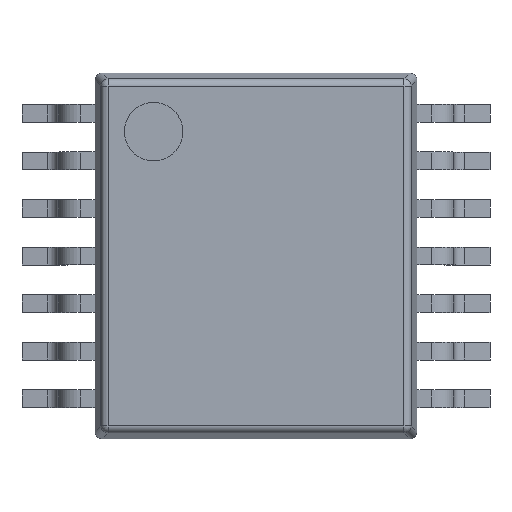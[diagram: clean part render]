
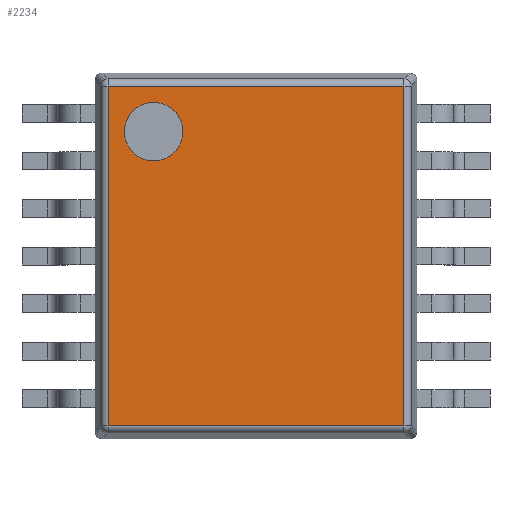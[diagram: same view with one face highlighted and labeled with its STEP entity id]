
A CAD part, top view. The second image highlights one B-rep face of the part: STEP entity #2234.
In plain terms, the highlighted planar face has unit normal (0, 0, 1) as drawn and (0, 1, 0) by its records, which use the part's own axes.
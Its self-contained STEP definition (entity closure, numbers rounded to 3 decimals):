
#825=CARTESIAN_POINT('',(-1.4,0.45,-1.7));
#826=DIRECTION('',(0.,-1.,0.));
#827=DIRECTION('',(1.,0.,0.));
#828=AXIS2_PLACEMENT_3D('',#825,#826,#827);
#833=CARTESIAN_POINT('',(-1.4,0.45,-1.7));
#834=DIRECTION('',(0.,-1.,0.));
#835=DIRECTION('',(-1.,0.,0.));
#836=AXIS2_PLACEMENT_3D('',#833,#834,#835);
#841=DIRECTION('',(0.,0.,1.));
#842=VECTOR('',#841,4.647);
#843=CARTESIAN_POINT('',(-2.023,0.45,-2.323));
#844=LINE('',#843,#842);
#848=DIRECTION('',(-1.,0.,0.));
#849=VECTOR('',#848,4.047);
#850=CARTESIAN_POINT('',(2.023,0.45,-2.323));
#851=LINE('',#850,#849);
#855=DIRECTION('',(0.,0.,-1.));
#856=VECTOR('',#855,4.647);
#857=CARTESIAN_POINT('',(2.023,0.45,2.323));
#858=LINE('',#857,#856);
#862=DIRECTION('',(1.,0.,0.));
#863=VECTOR('',#862,4.047);
#864=CARTESIAN_POINT('',(-2.023,0.45,2.323));
#865=LINE('',#864,#863);
#1428=CARTESIAN_POINT('',(-1.,0.45,-1.7));
#1429=CARTESIAN_POINT('',(-1.8,0.45,-1.7));
#1430=VERTEX_POINT('',#1428);
#1431=VERTEX_POINT('',#1429);
#1444=CARTESIAN_POINT('',(-2.023,0.45,-2.323));
#1445=CARTESIAN_POINT('',(-2.023,0.45,2.323));
#1446=VERTEX_POINT('',#1444);
#1447=VERTEX_POINT('',#1445);
#1452=CARTESIAN_POINT('',(2.023,0.45,2.323));
#1453=CARTESIAN_POINT('',(2.023,0.45,-2.323));
#1454=VERTEX_POINT('',#1452);
#1455=VERTEX_POINT('',#1453);
#2217=CARTESIAN_POINT('',(0.,0.45,0.));
#2218=DIRECTION('',(0.,1.,0.));
#2219=DIRECTION('',(1.,0.,0.));
#2220=AXIS2_PLACEMENT_3D('',#2217,#2218,#2219);
#2221=PLANE('',#2220);
#2222=ORIENTED_EDGE('',*,*,#2141,.F.);
#2223=ORIENTED_EDGE('',*,*,#2208,.F.);
#2224=ORIENTED_EDGE('',*,*,#2050,.F.);
#2225=ORIENTED_EDGE('',*,*,#2079,.F.);
#2226=EDGE_LOOP('',(#2222,#2223,#2224,#2225));
#2227=FACE_OUTER_BOUND('',#2226,.F.);
#2229=ORIENTED_EDGE('',*,*,#2228,.F.);
#2231=ORIENTED_EDGE('',*,*,#2230,.F.);
#2232=EDGE_LOOP('',(#2229,#2231));
#2233=FACE_BOUND('',#2232,.F.);
#2234=ADVANCED_FACE('',(#2227,#2233),#2221,.T.);
#829=CIRCLE('',#828,0.4);
#837=CIRCLE('',#836,0.4);
#2050=EDGE_CURVE('',#1454,#1455,#858,.T.);
#2079=EDGE_CURVE('',#1447,#1454,#865,.T.);
#2141=EDGE_CURVE('',#1446,#1447,#844,.T.);
#2208=EDGE_CURVE('',#1455,#1446,#851,.T.);
#2228=EDGE_CURVE('',#1430,#1431,#829,.T.);
#2230=EDGE_CURVE('',#1431,#1430,#837,.T.);
